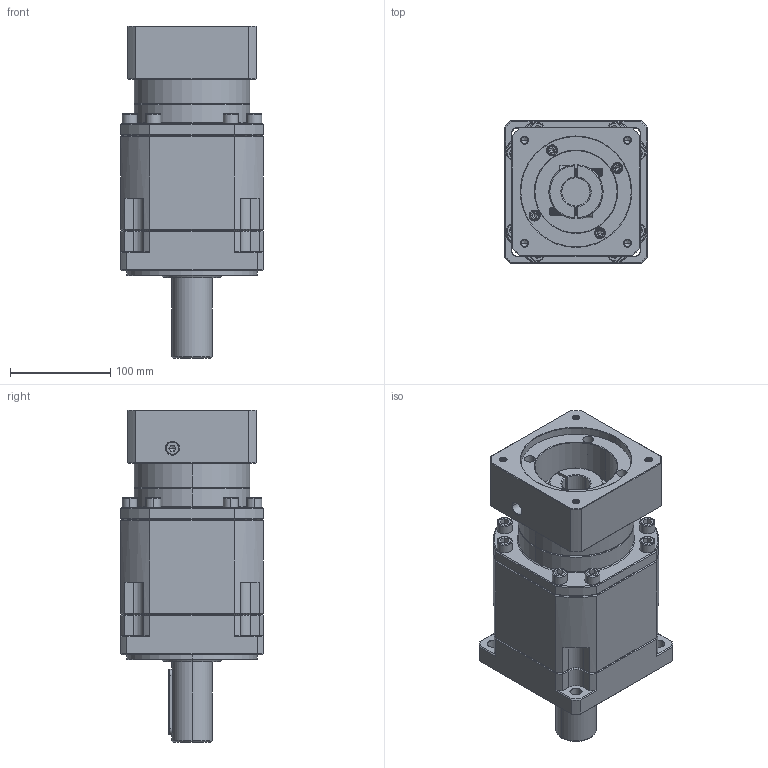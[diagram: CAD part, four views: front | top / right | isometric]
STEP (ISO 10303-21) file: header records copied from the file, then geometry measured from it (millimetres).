
FILE_DESCRIPTION (( 'STEP AP214' ), '1' );
FILE_NAME ('ZB142A-D40-L3-28-110-145-M8.step', '2023-03-18T07:06:53', ( '' ), ( '' ), 'SwSTEP 2.0', 'SolidWorks 2016', '' );
FILE_SCHEMA (( 'AUTOMOTIVE_DESIGN' ));
Length unit declared in the file: millimetre
Products named in the file (1): ZB142A-D40-L3-28-110-145-M8
Bounding box: 142 x 142 x 330.7 mm (x, y, z)
Volume: 3905506.7 mm3; surface area: 273494.6 mm2
Topology: 6 solids, 6 shells, 2260 faces, 5804 edges, 3664 vertices
Faces by surface type: plane 1024, cylinder 488, cone 383, bspline 307, torus 58
Entity records: 119170 total; most frequent: CARTESIAN_POINT 42063, ORIENTED_EDGE 11500, DIRECTION 9766, EDGE_CURVE 5750, VERTEX_POINT 3664, VECTOR 3580, LINE 3580, AXIS2_PLACEMENT_3D 3093
